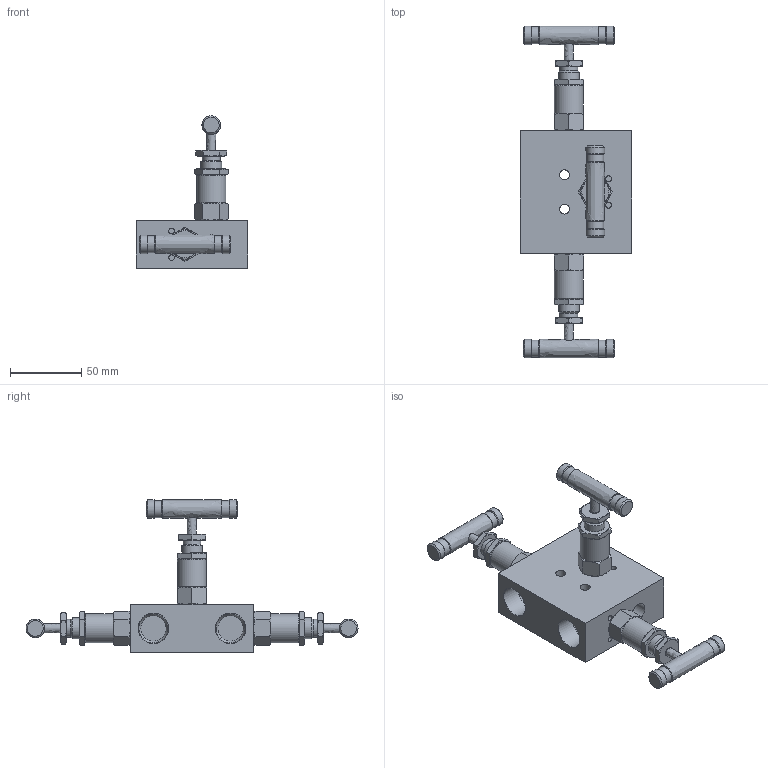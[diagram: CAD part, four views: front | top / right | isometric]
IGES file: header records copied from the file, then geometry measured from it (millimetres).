
Global section: file name: SM3V-F-8N-S316; native system: Autodesk Inventor 2016; preprocessor: unknown; author: 이승민,,11,0; organization: 20161214.090929; date: 20161216.192156; units: millimetre
Bounding box: 78 x 232.52 x 106.8 mm (x, y, z)
Volume: 264921.3 mm3; surface area: 56403.8 mm2
Topology: 4 solids, 4 shells, 325 faces, 796 edges, 517 vertices
Faces by surface type: bspline 325
